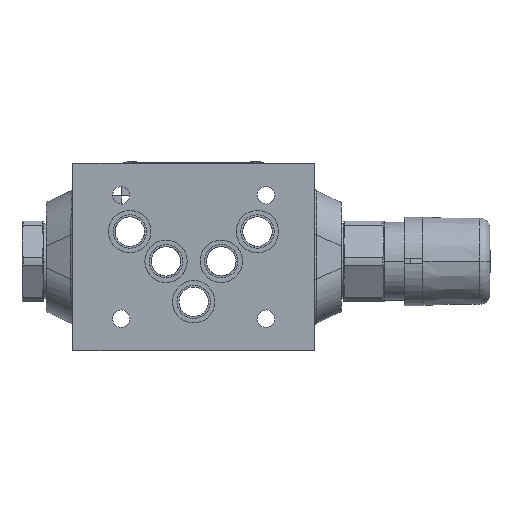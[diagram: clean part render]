
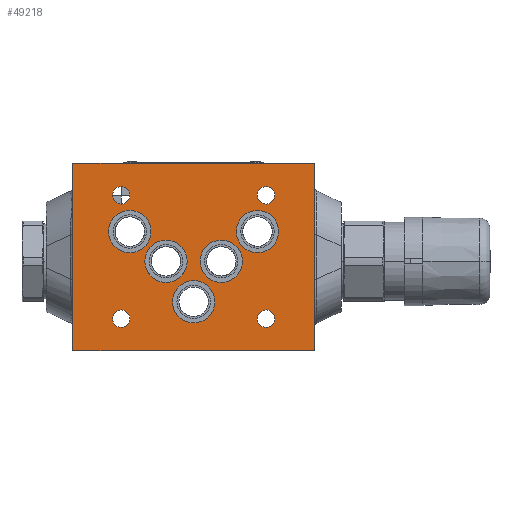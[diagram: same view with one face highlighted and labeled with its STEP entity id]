
A CAD part, front view. The second image highlights one B-rep face of the part: STEP entity #49218.
In plain terms, the highlighted planar face has unit normal (0, -1, 0).
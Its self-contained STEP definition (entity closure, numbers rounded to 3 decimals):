
#48537=CARTESIAN_POINT('',(28.,-0.4,72.));
#48538=DIRECTION('',(0.,-1.,0.));
#48539=DIRECTION('',(1.,0.,0.));
#48540=AXIS2_PLACEMENT_3D('',#48537,#48538,#48539);
#48545=CARTESIAN_POINT('',(28.,-0.4,72.));
#48546=DIRECTION('',(0.,-1.,0.));
#48547=DIRECTION('',(-1.,0.,0.));
#48548=AXIS2_PLACEMENT_3D('',#48545,#48546,#48547);
#48553=DIRECTION('',(1.,0.,0.));
#48554=VECTOR('',#48553,70.);
#48555=CARTESIAN_POINT('',(-30.,-0.4,90.));
#48556=LINE('',#48555,#48554);
#48560=DIRECTION('',(-1.,0.,0.));
#48561=VECTOR('',#48560,70.);
#48562=CARTESIAN_POINT('',(40.,-0.4,0.));
#48563=LINE('',#48562,#48561);
#48567=DIRECTION('',(0.,0.,1.));
#48568=VECTOR('',#48567,90.);
#48569=CARTESIAN_POINT('',(-30.,-0.4,0.));
#48570=LINE('',#48569,#48568);
#48574=CARTESIAN_POINT('',(28.,-0.4,18.));
#48575=DIRECTION('',(0.,-1.,0.));
#48576=DIRECTION('',(1.,0.,0.));
#48577=AXIS2_PLACEMENT_3D('',#48574,#48575,#48576);
#48582=CARTESIAN_POINT('',(28.,-0.4,18.));
#48583=DIRECTION('',(0.,-1.,0.));
#48584=DIRECTION('',(-1.,0.,0.));
#48585=AXIS2_PLACEMENT_3D('',#48582,#48583,#48584);
#48590=CARTESIAN_POINT('',(-18.,-0.4,18.));
#48591=DIRECTION('',(0.,-1.,0.));
#48592=DIRECTION('',(1.,0.,0.));
#48593=AXIS2_PLACEMENT_3D('',#48590,#48591,#48592);
#48598=CARTESIAN_POINT('',(-18.,-0.4,18.));
#48599=DIRECTION('',(0.,-1.,0.));
#48600=DIRECTION('',(-1.,0.,0.));
#48601=AXIS2_PLACEMENT_3D('',#48598,#48599,#48600);
#48606=CARTESIAN_POINT('',(-18.,-0.4,72.));
#48607=DIRECTION('',(0.,-1.,0.));
#48608=DIRECTION('',(1.,0.,0.));
#48609=AXIS2_PLACEMENT_3D('',#48606,#48607,#48608);
#48614=CARTESIAN_POINT('',(-18.,-0.4,72.));
#48615=DIRECTION('',(0.,-1.,0.));
#48616=DIRECTION('',(-1.,0.,0.));
#48617=AXIS2_PLACEMENT_3D('',#48614,#48615,#48616);
#48622=CARTESIAN_POINT('',(14.5,-0.4,68.8));
#48623=DIRECTION('',(0.,-1.,0.));
#48624=DIRECTION('',(0.,0.,-1.));
#48625=AXIS2_PLACEMENT_3D('',#48622,#48623,#48624);
#48630=CARTESIAN_POINT('',(14.5,-0.4,68.8));
#48631=DIRECTION('',(0.,-1.,0.));
#48632=DIRECTION('',(0.,0.,1.));
#48633=AXIS2_PLACEMENT_3D('',#48630,#48631,#48632);
#48638=CARTESIAN_POINT('',(3.4,-0.4,55.3));
#48639=DIRECTION('',(0.,-1.,0.));
#48640=DIRECTION('',(0.,0.,-1.));
#48641=AXIS2_PLACEMENT_3D('',#48638,#48639,#48640);
#48646=CARTESIAN_POINT('',(3.4,-0.4,55.3));
#48647=DIRECTION('',(0.,-1.,0.));
#48648=DIRECTION('',(0.,0.,1.));
#48649=AXIS2_PLACEMENT_3D('',#48646,#48647,#48648);
#48654=CARTESIAN_POINT('',(-11.7,-0.4,45.));
#48655=DIRECTION('',(0.,-1.,0.));
#48656=DIRECTION('',(0.,0.,-1.));
#48657=AXIS2_PLACEMENT_3D('',#48654,#48655,#48656);
#48662=CARTESIAN_POINT('',(-11.7,-0.4,45.));
#48663=DIRECTION('',(0.,-1.,0.));
#48664=DIRECTION('',(0.,0.,1.));
#48665=AXIS2_PLACEMENT_3D('',#48662,#48663,#48664);
#48670=CARTESIAN_POINT('',(3.4,-0.4,34.7));
#48671=DIRECTION('',(0.,-1.,0.));
#48672=DIRECTION('',(0.,0.,-1.));
#48673=AXIS2_PLACEMENT_3D('',#48670,#48671,#48672);
#48678=CARTESIAN_POINT('',(3.4,-0.4,34.7));
#48679=DIRECTION('',(0.,-1.,0.));
#48680=DIRECTION('',(0.,0.,1.));
#48681=AXIS2_PLACEMENT_3D('',#48678,#48679,#48680);
#48686=CARTESIAN_POINT('',(14.5,-0.4,21.2));
#48687=DIRECTION('',(0.,-1.,0.));
#48688=DIRECTION('',(0.,0.,-1.));
#48689=AXIS2_PLACEMENT_3D('',#48686,#48687,#48688);
#48694=CARTESIAN_POINT('',(14.5,-0.4,21.2));
#48695=DIRECTION('',(0.,-1.,0.));
#48696=DIRECTION('',(0.,0.,1.));
#48697=AXIS2_PLACEMENT_3D('',#48694,#48695,#48696);
#48874=DIRECTION('',(0.,0.,1.));
#48875=VECTOR('',#48874,90.);
#48876=CARTESIAN_POINT('',(40.,-0.4,0.));
#48877=LINE('',#48876,#48875);
#49028=CARTESIAN_POINT('',(40.,-0.4,0.));
#49030=VERTEX_POINT('',#49028);
#49036=CARTESIAN_POINT('',(-30.,-0.4,0.));
#49037=VERTEX_POINT('',#49036);
#49038=CARTESIAN_POINT('',(40.,-0.4,90.));
#49040=VERTEX_POINT('',#49038);
#49046=CARTESIAN_POINT('',(-30.,-0.4,90.));
#49047=VERTEX_POINT('',#49046);
#49048=CARTESIAN_POINT('',(31.25,-0.4,72.));
#49049=CARTESIAN_POINT('',(24.75,-0.4,72.));
#49050=VERTEX_POINT('',#49048);
#49051=VERTEX_POINT('',#49049);
#49056=CARTESIAN_POINT('',(31.25,-0.4,18.));
#49057=CARTESIAN_POINT('',(24.75,-0.4,18.));
#49058=VERTEX_POINT('',#49056);
#49059=VERTEX_POINT('',#49057);
#49064=CARTESIAN_POINT('',(-14.75,-0.4,18.));
#49065=CARTESIAN_POINT('',(-21.25,-0.4,18.));
#49066=VERTEX_POINT('',#49064);
#49067=VERTEX_POINT('',#49065);
#49072=CARTESIAN_POINT('',(-14.75,-0.4,72.));
#49073=CARTESIAN_POINT('',(-21.25,-0.4,72.));
#49074=VERTEX_POINT('',#49072);
#49075=VERTEX_POINT('',#49073);
#49080=CARTESIAN_POINT('',(14.5,-0.4,61.));
#49081=CARTESIAN_POINT('',(14.5,-0.4,76.6));
#49082=VERTEX_POINT('',#49080);
#49083=VERTEX_POINT('',#49081);
#49084=CARTESIAN_POINT('',(3.4,-0.4,47.5));
#49085=CARTESIAN_POINT('',(3.4,-0.4,63.1));
#49086=VERTEX_POINT('',#49084);
#49087=VERTEX_POINT('',#49085);
#49088=CARTESIAN_POINT('',(-11.7,-0.4,37.2));
#49089=CARTESIAN_POINT('',(-11.7,-0.4,52.8));
#49090=VERTEX_POINT('',#49088);
#49091=VERTEX_POINT('',#49089);
#49092=CARTESIAN_POINT('',(3.4,-0.4,26.9));
#49093=CARTESIAN_POINT('',(3.4,-0.4,42.5));
#49094=VERTEX_POINT('',#49092);
#49095=VERTEX_POINT('',#49093);
#49096=CARTESIAN_POINT('',(14.5,-0.4,13.4));
#49097=CARTESIAN_POINT('',(14.5,-0.4,29.));
#49098=VERTEX_POINT('',#49096);
#49099=VERTEX_POINT('',#49097);
#49150=CARTESIAN_POINT('',(-30.,-0.4,0.));
#49151=DIRECTION('',(0.,-1.,0.));
#49152=DIRECTION('',(1.,0.,0.));
#49153=AXIS2_PLACEMENT_3D('',#49150,#49151,#49152);
#49154=PLANE('',#49153);
#49156=ORIENTED_EDGE('',*,*,#49155,.T.);
#49158=ORIENTED_EDGE('',*,*,#49157,.F.);
#49159=ORIENTED_EDGE('',*,*,#49125,.T.);
#49161=ORIENTED_EDGE('',*,*,#49160,.T.);
#49162=EDGE_LOOP('',(#49156,#49158,#49159,#49161));
#49163=FACE_OUTER_BOUND('',#49162,.F.);
#49165=ORIENTED_EDGE('',*,*,#49164,.T.);
#49167=ORIENTED_EDGE('',*,*,#49166,.T.);
#49168=EDGE_LOOP('',(#49165,#49167));
#49169=FACE_BOUND('',#49168,.F.);
#49171=ORIENTED_EDGE('',*,*,#49170,.T.);
#49173=ORIENTED_EDGE('',*,*,#49172,.T.);
#49174=EDGE_LOOP('',(#49171,#49173));
#49175=FACE_BOUND('',#49174,.F.);
#49177=ORIENTED_EDGE('',*,*,#49176,.T.);
#49179=ORIENTED_EDGE('',*,*,#49178,.T.);
#49180=EDGE_LOOP('',(#49177,#49179));
#49181=FACE_BOUND('',#49180,.F.);
#49183=ORIENTED_EDGE('',*,*,#49182,.T.);
#49185=ORIENTED_EDGE('',*,*,#49184,.T.);
#49186=EDGE_LOOP('',(#49183,#49185));
#49187=FACE_BOUND('',#49186,.F.);
#49189=ORIENTED_EDGE('',*,*,#49188,.T.);
#49191=ORIENTED_EDGE('',*,*,#49190,.T.);
#49192=EDGE_LOOP('',(#49189,#49191));
#49193=FACE_BOUND('',#49192,.F.);
#49195=ORIENTED_EDGE('',*,*,#49194,.T.);
#49197=ORIENTED_EDGE('',*,*,#49196,.T.);
#49198=EDGE_LOOP('',(#49195,#49197));
#49199=FACE_BOUND('',#49198,.F.);
#49201=ORIENTED_EDGE('',*,*,#49200,.T.);
#49203=ORIENTED_EDGE('',*,*,#49202,.T.);
#49204=EDGE_LOOP('',(#49201,#49203));
#49205=FACE_BOUND('',#49204,.F.);
#49207=ORIENTED_EDGE('',*,*,#49206,.T.);
#49209=ORIENTED_EDGE('',*,*,#49208,.T.);
#49210=EDGE_LOOP('',(#49207,#49209));
#49211=FACE_BOUND('',#49210,.F.);
#49213=ORIENTED_EDGE('',*,*,#49212,.T.);
#49215=ORIENTED_EDGE('',*,*,#49214,.T.);
#49216=EDGE_LOOP('',(#49213,#49215));
#49217=FACE_BOUND('',#49216,.F.);
#48541=CIRCLE('',#48540,3.25);
#48549=CIRCLE('',#48548,3.25);
#48578=CIRCLE('',#48577,3.25);
#48586=CIRCLE('',#48585,3.25);
#48594=CIRCLE('',#48593,3.25);
#48602=CIRCLE('',#48601,3.25);
#48610=CIRCLE('',#48609,3.25);
#48618=CIRCLE('',#48617,3.25);
#48626=CIRCLE('',#48625,7.8);
#48634=CIRCLE('',#48633,7.8);
#48642=CIRCLE('',#48641,7.8);
#48650=CIRCLE('',#48649,7.8);
#48658=CIRCLE('',#48657,7.8);
#48666=CIRCLE('',#48665,7.8);
#48674=CIRCLE('',#48673,7.8);
#48682=CIRCLE('',#48681,7.8);
#48690=CIRCLE('',#48689,7.8);
#48698=CIRCLE('',#48697,7.8);
#49125=EDGE_CURVE('',#49030,#49037,#48563,.T.);
#49155=EDGE_CURVE('',#49047,#49040,#48556,.T.);
#49157=EDGE_CURVE('',#49030,#49040,#48877,.T.);
#49160=EDGE_CURVE('',#49037,#49047,#48570,.T.);
#49164=EDGE_CURVE('',#49050,#49051,#48541,.T.);
#49166=EDGE_CURVE('',#49051,#49050,#48549,.T.);
#49170=EDGE_CURVE('',#49058,#49059,#48578,.T.);
#49172=EDGE_CURVE('',#49059,#49058,#48586,.T.);
#49176=EDGE_CURVE('',#49066,#49067,#48594,.T.);
#49178=EDGE_CURVE('',#49067,#49066,#48602,.T.);
#49182=EDGE_CURVE('',#49074,#49075,#48610,.T.);
#49184=EDGE_CURVE('',#49075,#49074,#48618,.T.);
#49188=EDGE_CURVE('',#49082,#49083,#48626,.T.);
#49190=EDGE_CURVE('',#49083,#49082,#48634,.T.);
#49194=EDGE_CURVE('',#49086,#49087,#48642,.T.);
#49196=EDGE_CURVE('',#49087,#49086,#48650,.T.);
#49200=EDGE_CURVE('',#49090,#49091,#48658,.T.);
#49202=EDGE_CURVE('',#49091,#49090,#48666,.T.);
#49206=EDGE_CURVE('',#49094,#49095,#48674,.T.);
#49208=EDGE_CURVE('',#49095,#49094,#48682,.T.);
#49212=EDGE_CURVE('',#49098,#49099,#48690,.T.);
#49214=EDGE_CURVE('',#49099,#49098,#48698,.T.);
#49218=ADVANCED_FACE('',(#49163,#49169,#49175,#49181,#49187,#49193,#49199,
#49205,#49211,#49217),#49154,.T.);
